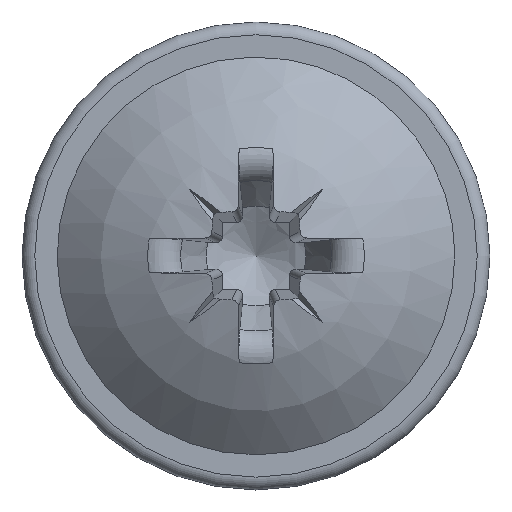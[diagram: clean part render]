
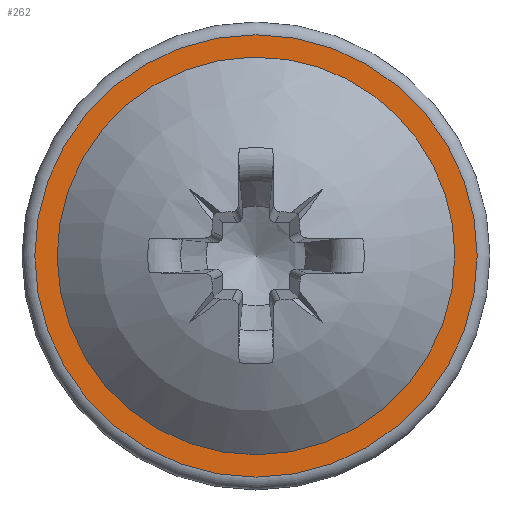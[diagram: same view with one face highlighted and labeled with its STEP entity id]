
A CAD part, top view. The second image highlights one B-rep face of the part: STEP entity #262.
In plain terms, the highlighted planar face has unit normal (0, 0, 1).
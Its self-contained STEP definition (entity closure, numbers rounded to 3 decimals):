
#70=PLANE('',#1488);
#236=FACE_BOUND('',#442,.T.);
#237=FACE_BOUND('',#443,.T.);
#262=ADVANCED_FACE('',(#236,#237),#70,.F.);
#442=EDGE_LOOP('',(#652));
#443=EDGE_LOOP('',(#653));
#528=CIRCLE('',#1446,4.675);
#563=CIRCLE('',#1487,5.2);
#652=ORIENTED_EDGE('',*,*,#1202,.T.);
#653=ORIENTED_EDGE('',*,*,#1151,.F.);
#1014=VERTEX_POINT('',#2474);
#1063=VERTEX_POINT('',#2784);
#1151=EDGE_CURVE('',#1014,#1014,#528,.T.);
#1202=EDGE_CURVE('',#1063,#1063,#563,.T.);
#1446=AXIS2_PLACEMENT_3D('',#2473,#1557,#1558);
#1487=AXIS2_PLACEMENT_3D('',#2783,#1640,#1641);
#1488=AXIS2_PLACEMENT_3D('',#2785,#1642,#1643);
#1557=DIRECTION('',(0.,0.,1.));
#1558=DIRECTION('',(1.,0.,0.));
#1640=DIRECTION('',(0.,0.,1.));
#1641=DIRECTION('',(-1.,0.,0.));
#1642=DIRECTION('',(0.,0.,-1.));
#1643=DIRECTION('',(-1.,0.,0.));
#2473=CARTESIAN_POINT('',(0.,0.,1.2));
#2474=CARTESIAN_POINT('',(4.675,0.,1.2));
#2783=CARTESIAN_POINT('',(0.,0.,1.2));
#2784=CARTESIAN_POINT('',(-5.2,0.,1.2));
#2785=CARTESIAN_POINT('',(0.,5.5,1.2));
